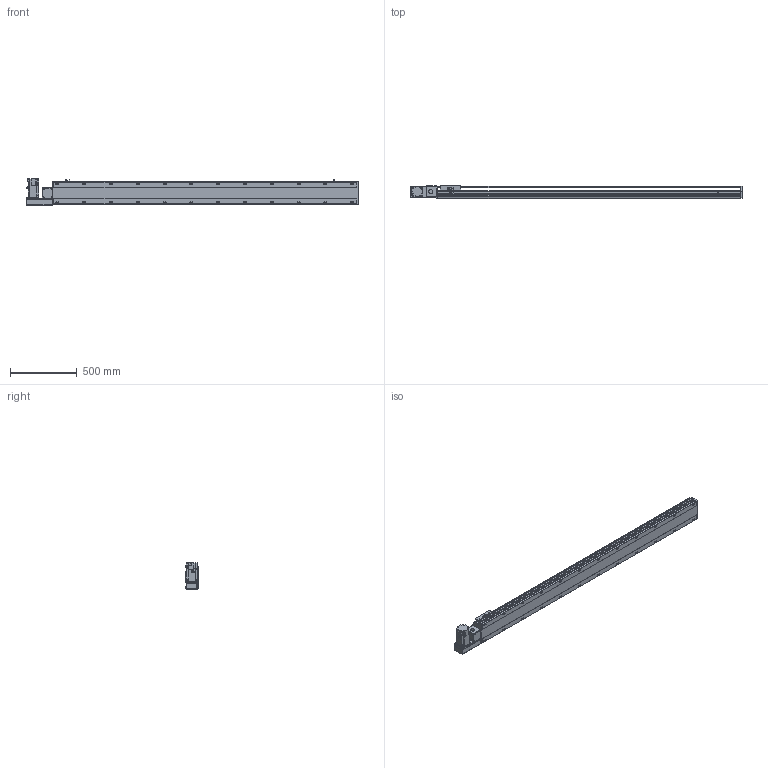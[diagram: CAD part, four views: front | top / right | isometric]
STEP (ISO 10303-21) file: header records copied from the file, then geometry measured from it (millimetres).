
FILE_DESCRIPTION( ( 'STEP AP214' ), '1' );
FILE_NAME( 'x:/temp/worker_4/temp/exporttempdir_2248_217_gzmC5/format_0/PBS170-P40-S2000-L-T75-C1-N(0).stp', '2022-06-07T06:58:03', ( 'License CC BY-ND 4.0' ), ( 'CADENAS' ), ' ', 'PARTsolutions', ' ' );
FILE_SCHEMA( ( 'AUTOMOTIVE_DESIGN { 1 0 10303 214 1 1 1 1 }' ) );
Length unit declared in the file: millimetre
Products named in the file (7): PBS170-P40-S2000-L-T75-C1-N(0); _PBS170-S2000()_body; _PBS170T-L_motors; _T75-p1; _PBS170_sliser; _PBS170_plant; _PBS170_sensor
Assembly tree (8 placements, depth 2):
  PBS170-P40-S2000-L-T75-C1-N(0)
    _PBS170-S2000()_body
    _PBS170T-L_motors
    _T75-p1
    _PBS170_sliser
    _PBS170_plant
    _PBS170_sensor  x3
Bounding box: 2478 x 97 x 197.3 mm (x, y, z)
Volume: 18117965.5 mm3; surface area: 2298960.7 mm2
Topology: 8 solids, 8 shells, 1146 faces, 3035 edges, 1978 vertices
Faces by surface type: plane 711, cylinder 371, cone 54, sphere 8, torus 2
Full cylindrical faces by diameter (mm): 3.242 x4, 4 x2, 4.4 x4, 4.5 x6, 4.917 x4, 6 x9, 6.647 x32, 7 x2, 7.5 x4, 8 x8, 8.5 x24, 10 x4, 10.5 x24, 11 x2, 30 x2, 40 x1, 70 x1
Entity records: 42308 total; most frequent: CARTESIAN_POINT 6893, DIRECTION 5580, ORIENTED_EDGE 5268, EDGE_CURVE 2634, AXIS2_PLACEMENT_3D 1957, VERTEX_POINT 1826, LINE 1666, VECTOR 1666
